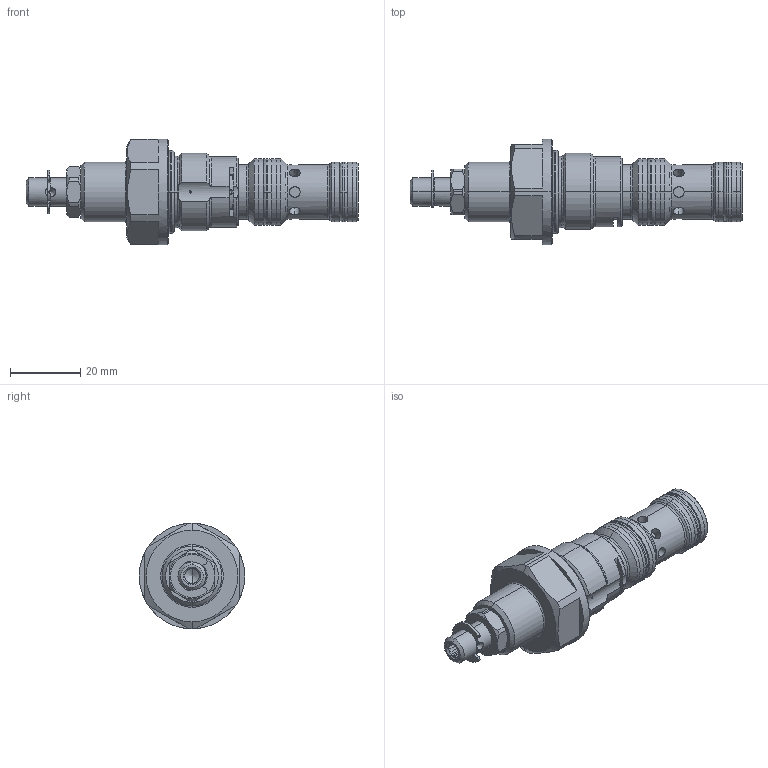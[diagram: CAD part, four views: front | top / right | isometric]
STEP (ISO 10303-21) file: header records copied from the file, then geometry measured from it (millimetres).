
FILE_DESCRIPTION (( 'STEP AP214' ), '1' );
FILE_NAME ('FVSPM22.STEP', '2017-03-23T06:52:00', ( '' ), ( '' ), 'SwSTEP 2.0', 'SolidWorks 2016', '' );
FILE_SCHEMA (( 'AUTOMOTIVE_DESIGN' ));
Length unit declared in the file: millimetre
Products named in the file (1): FVSPM22
Bounding box: 94.4 x 30 x 30 mm (x, y, z)
Volume: 25880.2 mm3; surface area: 10299.4 mm2
Topology: 10 solids, 10 shells, 332 faces, 778 edges, 477 vertices
Faces by surface type: cylinder 120, plane 88, cone 53, torus 47, bspline 24
Entity records: 14302 total; most frequent: CARTESIAN_POINT 2962, DIRECTION 1672, ORIENTED_EDGE 1544, EDGE_CURVE 772, AXIS2_PLACEMENT_3D 719, VERTEX_POINT 477, CIRCLE 410, EDGE_LOOP 367
